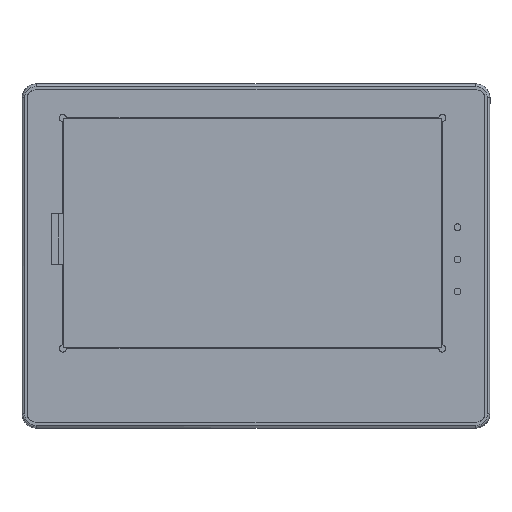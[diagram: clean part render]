
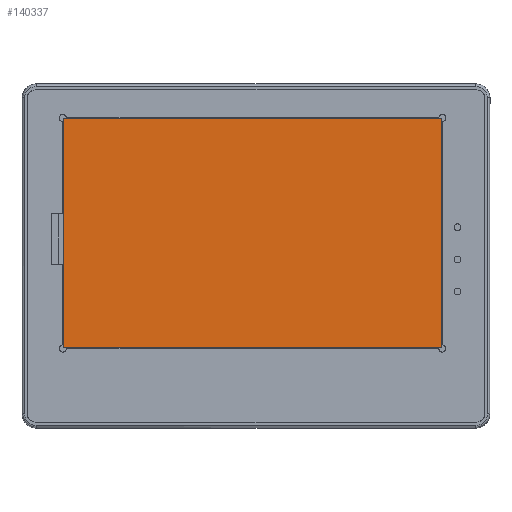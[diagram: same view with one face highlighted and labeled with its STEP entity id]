
A CAD part, top view. The second image highlights one B-rep face of the part: STEP entity #140337.
In plain terms, the highlighted planar face has unit normal (0, 0, 1).
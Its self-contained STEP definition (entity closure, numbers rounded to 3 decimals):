
#15656 = VERTEX_POINT ( 'NONE', #49426 ) ;
#25886 = VECTOR ( 'NONE', #192589, 1000. ) ;
#26820 = EDGE_CURVE ( 'NONE', #15656, #161468, #67407, .T. ) ;
#31253 = CARTESIAN_POINT ( 'NONE',  ( -78.95, 0., 3.45 ) ) ;
#41766 = VERTEX_POINT ( 'NONE', #57662 ) ;
#43412 = LINE ( 'NONE', #105996, #65503 ) ;
#43617 = FACE_OUTER_BOUND ( 'NONE', #83293, .T. ) ;
#45348 = CARTESIAN_POINT ( 'NONE',  ( 85.95, -48.1, 3.45 ) ) ;
#45675 = DIRECTION ( 'NONE',  ( 1., 0., 0. ) ) ;
#46365 = EDGE_CURVE ( 'NONE', #41766, #15656, #171799, .T. ) ;
#49426 = CARTESIAN_POINT ( 'NONE',  ( -78.95, -48.1, 3.45 ) ) ;
#57662 = CARTESIAN_POINT ( 'NONE',  ( -78.95, 51.9, 3.45 ) ) ;
#59972 = ORIENTED_EDGE ( 'NONE', *, *, #46365, .T. ) ;
#60322 = DIRECTION ( 'NONE',  ( -1., 0., 0. ) ) ;
#63489 = ORIENTED_EDGE ( 'NONE', *, *, #103940, .T. ) ;
#65503 = VECTOR ( 'NONE', #168628, 1000. ) ;
#67407 = LINE ( 'NONE', #130056, #25886 ) ;
#83293 = EDGE_LOOP ( 'NONE', ( #140510, #59972, #106874, #63489 ) ) ;
#93762 = DIRECTION ( 'NONE',  ( 0., -1., 0. ) ) ;
#94505 = CARTESIAN_POINT ( 'NONE',  ( 85.95, 51.9, 3.45 ) ) ;
#97739 = AXIS2_PLACEMENT_3D ( 'NONE', #123670, #186203, #45675 ) ;
#103940 = EDGE_CURVE ( 'NONE', #161468, #115699, #43412, .T. ) ;
#105996 = CARTESIAN_POINT ( 'NONE',  ( 85.95, 0., 3.45 ) ) ;
#106874 = ORIENTED_EDGE ( 'NONE', *, *, #26820, .T. ) ;
#115699 = VERTEX_POINT ( 'NONE', #94505 ) ;
#116960 = VECTOR ( 'NONE', #60322, 1000. ) ;
#123670 = CARTESIAN_POINT ( 'NONE',  ( 5., 0., 3.45 ) ) ;
#130056 = CARTESIAN_POINT ( 'NONE',  ( 5., -48.1, 3.45 ) ) ;
#138428 = LINE ( 'NONE', #200891, #116960 ) ;
#140337 = ADVANCED_FACE ( 'NONE', ( #43617 ), #153449, .T. ) ;
#140510 = ORIENTED_EDGE ( 'NONE', *, *, #191423, .T. ) ;
#153449 = PLANE ( 'NONE',  #97739 ) ;
#161468 = VERTEX_POINT ( 'NONE', #45348 ) ;
#168628 = DIRECTION ( 'NONE',  ( 0., 1., 0. ) ) ;
#171799 = LINE ( 'NONE', #31253, #194545 ) ;
#186203 = DIRECTION ( 'NONE',  ( 0., 0., 1. ) ) ;
#191423 = EDGE_CURVE ( 'NONE', #115699, #41766, #138428, .T. ) ;
#192589 = DIRECTION ( 'NONE',  ( 1., 0., 0. ) ) ;
#194545 = VECTOR ( 'NONE', #93762, 1000. ) ;
#200891 = CARTESIAN_POINT ( 'NONE',  ( 5., 51.9, 3.45 ) ) ;
